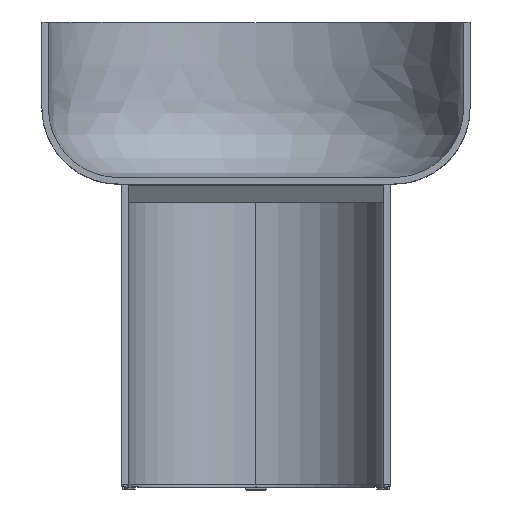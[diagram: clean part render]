
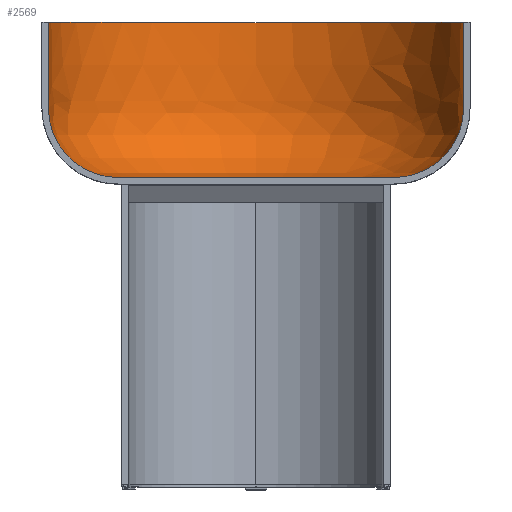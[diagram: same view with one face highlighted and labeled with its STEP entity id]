
A CAD part, top view. The second image highlights one B-rep face of the part: STEP entity #2569.
In plain terms, the highlighted free-form (B-spline) face has degree [2, 2] with [9, 5] control points.
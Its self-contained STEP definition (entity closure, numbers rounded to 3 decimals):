
#12 = EDGE_CURVE ( 'NONE', #1429, #1242, #2418, .T. ) ;
#17 = CARTESIAN_POINT ( 'NONE',  ( 48331.807, -33847.883, 625. ) ) ;
#169 = CARTESIAN_POINT ( 'NONE',  ( 47778.51, -33585.587, 435.686 ) ) ;
#186 = CARTESIAN_POINT ( 'NONE',  ( 48274.4, -33614.291, 406.982 ) ) ;
#200 = CARTESIAN_POINT ( 'NONE',  ( 48040.807, -33654.883, 406.982 ) ) ;
#227 = CARTESIAN_POINT ( 'NONE',  ( 48040.807, -33614.291, 406.982 ) ) ;
#258 = DIRECTION ( 'NONE',  ( 1., 0., 0. ) ) ;
#262 = ORIENTED_EDGE ( 'NONE', *, *, #944, .T. ) ;
#284 = CIRCLE ( 'NONE', #625, 98. ) ;
#304 = DIRECTION ( 'NONE',  ( 1., 0., 0. ) ) ;
#570 = DIRECTION ( 'NONE',  ( 0., -1., 0. ) ) ;
#625 = AXIS2_PLACEMENT_3D ( 'NONE', #3050, #570, #2010 ) ;
#652 = ORIENTED_EDGE ( 'NONE', *, *, #797, .T. ) ;
#675 = LINE ( 'NONE', #2333, #2247 ) ;
#734 = CARTESIAN_POINT ( 'NONE',  ( 48040.807, -33556.883, 504.982 ) ) ;
#745 = ORIENTED_EDGE ( 'NONE', *, *, #1136, .T. ) ;
#748 = CARTESIAN_POINT ( 'NONE',  ( 47847.807, -33847.883, 406.982 ) ) ;
#766 = CARTESIAN_POINT ( 'NONE',  ( 47944.307, -33751.383, 406.982 ) ) ;
#783 = CARTESIAN_POINT ( 'NONE',  ( 48331.807, -33556.883, 564.991 ) ) ;
#797 = EDGE_CURVE ( 'NONE', #1277, #2239, #675, .T. ) ;
#815 = CARTESIAN_POINT ( 'NONE',  ( 47944.307, -33847.883, 406.982 ) ) ;
#834 = CARTESIAN_POINT ( 'NONE',  ( 47749.807, -33847.883, 564.991 ) ) ;
#842 = AXIS2_PLACEMENT_3D ( 'NONE', #1895, #1347, #304 ) ;
#849 = EDGE_CURVE ( 'NONE', #2239, #3538, #2600, .T. ) ;
#895 = CARTESIAN_POINT ( 'NONE',  ( 47749.807, -33847.883, 625. ) ) ;
#944 = EDGE_CURVE ( 'NONE', #3538, #1429, #3437, .T. ) ;
#995 = ORIENTED_EDGE ( 'NONE', *, *, #1843, .T. ) ;
#998 = CARTESIAN_POINT ( 'NONE',  ( 48040.807, -33847.883, 406.982 ) ) ;
#1014 = CARTESIAN_POINT ( 'NONE',  ( 48040.807, -33847.883, 406.982 ) ) ;
#1015 = CARTESIAN_POINT ( 'NONE',  ( 47749.807, -33847.883, 564.991 ) ) ;
#1030 = CARTESIAN_POINT ( 'NONE',  ( 48040.807, -33556.883, 464.389 ) ) ;
#1058 = LINE ( 'NONE', #815, #2979 ) ;
#1060 = CARTESIAN_POINT ( 'NONE',  ( 48331.807, -33847.883, 464.389 ) ) ;
#1085 = VECTOR ( 'NONE', #2303, 1000. ) ;
#1136 = EDGE_CURVE ( 'NONE', #1242, #2776, #3487, .T. ) ;
#1192 = CARTESIAN_POINT ( 'NONE',  ( 48331.807, -33847.883, 564.991 ) ) ;
#1212 = CARTESIAN_POINT ( 'NONE',  ( 48040.807, -33847.883, 406.982 ) ) ;
#1223 = EDGE_LOOP ( 'NONE', ( #652, #2568, #262, #2525, #745, #995, #3234 ) ) ;
#1242 = VERTEX_POINT ( 'NONE', #895 ) ;
#1277 = VERTEX_POINT ( 'NONE', #1212 ) ;
#1285 = CARTESIAN_POINT ( 'NONE',  ( 48303.103, -33847.883, 435.686 ) ) ;
#1328 = CARTESIAN_POINT ( 'NONE',  ( 48040.807, -33847.883, 406.982 ) ) ;
#1342 = CARTESIAN_POINT ( 'NONE',  ( 47749.807, -33847.883, 625. ) ) ;
#1347 = DIRECTION ( 'NONE',  ( 0., 0., 1. ) ) ;
#1356 = VECTOR ( 'NONE', #3222, 1000. ) ;
#1361 = CARTESIAN_POINT ( 'NONE',  ( 48331.807, -33556.883, 625. ) ) ;
#1429 = VERTEX_POINT ( 'NONE', #2390 ) ;
#1461 = EDGE_CURVE ( 'NONE', #1776, #1277, #1058, .T. ) ;
#1551 = FACE_OUTER_BOUND ( 'NONE', #1223, .T. ) ;
#1584 = CARTESIAN_POINT ( 'NONE',  ( 47944.307, -33847.883, 406.982 ) ) ;
#1613 = CARTESIAN_POINT ( 'NONE',  ( 47847.807, -33847.883, 406.982 ) ) ;
#1661 = DIRECTION ( 'NONE',  ( 0., 0., -1. ) ) ;
#1731 = CARTESIAN_POINT ( 'NONE',  ( 48331.807, -33847.883, 504.982 ) ) ;
#1776 = VERTEX_POINT ( 'NONE', #748 ) ;
#1839 = CARTESIAN_POINT ( 'NONE',  ( 48040.807, -33847.883, 406.982 ) ) ;
#1843 = EDGE_CURVE ( 'NONE', #2776, #1776, #284, .T. ) ;
#1860 = CARTESIAN_POINT ( 'NONE',  ( 48137.307, -33751.383, 406.982 ) ) ;
#1875 = CARTESIAN_POINT ( 'NONE',  ( 48233.807, -33847.883, 406.982 ) ) ;
#1890 = CARTESIAN_POINT ( 'NONE',  ( 48137.307, -33847.883, 406.982 ) ) ;
#1895 = CARTESIAN_POINT ( 'NONE',  ( 48040.807, -33847.883, 625. ) ) ;
#2010 = DIRECTION ( 'NONE',  ( -1., 0., 0. ) ) ;
#2106 = CARTESIAN_POINT ( 'NONE',  ( 47778.51, -33847.883, 435.686 ) ) ;
#2122 = CARTESIAN_POINT ( 'NONE',  ( 47749.807, -33556.883, 464.389 ) ) ;
#2140 = CARTESIAN_POINT ( 'NONE',  ( 47749.807, -33556.883, 504.982 ) ) ;
#2169 = CARTESIAN_POINT ( 'NONE',  ( 47749.807, -33847.883, 464.389 ) ) ;
#2184 = CARTESIAN_POINT ( 'NONE',  ( 48040.807, -33556.883, 625. ) ) ;
#2239 = VERTEX_POINT ( 'NONE', #2699 ) ;
#2247 = VECTOR ( 'NONE', #3495, 1000. ) ;
#2303 = DIRECTION ( 'NONE',  ( 0., 0., 1. ) ) ;
#2333 = CARTESIAN_POINT ( 'NONE',  ( 48137.307, -33847.883, 406.982 ) ) ;
#2374 = CARTESIAN_POINT ( 'NONE',  ( 48040.807, -33556.883, 564.991 ) ) ;
#2390 = CARTESIAN_POINT ( 'NONE',  ( 48331.807, -33847.883, 625. ) ) ;
#2393 = CARTESIAN_POINT ( 'NONE',  ( 48040.807, -33585.587, 435.686 ) ) ;
#2407 = CARTESIAN_POINT ( 'NONE',  ( 48274.4, -33847.883, 406.982 ) ) ;
#2418 = CIRCLE ( 'NONE', #842, 291. ) ;
#2438 = CARTESIAN_POINT ( 'NONE',  ( 47807.214, -33614.291, 406.982 ) ) ;
#2470 = DIRECTION ( 'NONE',  ( 0., -1., 0. ) ) ;
#2525 = ORIENTED_EDGE ( 'NONE', *, *, #12, .T. ) ;
#2568 = ORIENTED_EDGE ( 'NONE', *, *, #849, .T. ) ;
#2569 = ADVANCED_FACE ( 'NONE', ( #1551 ), #2936, .T. ) ;
#2600 = CIRCLE ( 'NONE', #3508, 98. ) ;
#2666 = CARTESIAN_POINT ( 'NONE',  ( 48040.807, -33847.883, 406.982 ) ) ;
#2699 = CARTESIAN_POINT ( 'NONE',  ( 48233.807, -33847.883, 406.982 ) ) ;
#2710 = CARTESIAN_POINT ( 'NONE',  ( 47847.807, -33654.883, 406.982 ) ) ;
#2776 = VERTEX_POINT ( 'NONE', #3144 ) ;
#2936 =( BOUNDED_SURFACE ( )  B_SPLINE_SURFACE ( 2, 2, ( 
 ( #998, #1839, #1328, #2666, #1014 ),
 ( #1890, #1860, #3501, #766, #1584 ),
 ( #1875, #2978, #200, #2710, #1613 ),
 ( #2407, #186, #227, #2438, #3528 ),
 ( #1285, #3472, #2393, #169, #2106 ),
 ( #1060, #2993, #1030, #2122, #2169 ),
 ( #3218, #2962, #734, #2140, #3269 ),
 ( #3238, #783, #2374, #3337, #834 ),
 ( #17, #1361, #2184, #3009, #1342 ) ),
 .UNSPECIFIED., .F., .F., .F. ) 
 B_SPLINE_SURFACE_WITH_KNOTS ( ( 3, 1, 1, 1, 1, 1, 1, 3 ),
 ( 3, 2, 3 ),
 ( 0., 243.193, 243.193, 347.785, 347.785, 452.376, 452.376, 608.525 ),
 ( 0., 471.239, 942.478 ),
 .UNSPECIFIED. ) 
 GEOMETRIC_REPRESENTATION_ITEM ( )  RATIONAL_B_SPLINE_SURFACE ( (
 ( 1., 0.707, 1., 0.707, 1.),
 ( 1., 0.707, 1., 0.707, 1.),
 ( 1., 0.707, 1., 0.707, 1.),
 ( 0.924, 0.653, 0.924, 0.653, 0.924),
 ( 1., 0.707, 1., 0.707, 1.),
 ( 0.924, 0.653, 0.924, 0.653, 0.924),
 ( 1., 0.707, 1., 0.707, 1.),
 ( 1., 0.707, 1., 0.707, 1.),
 ( 1., 0.707, 1., 0.707, 1.) ) ) 
 REPRESENTATION_ITEM ( '' )  SURFACE ( )  );
#2957 = CARTESIAN_POINT ( 'NONE',  ( 48233.807, -33847.883, 504.982 ) ) ;
#2962 = CARTESIAN_POINT ( 'NONE',  ( 48331.807, -33556.883, 504.982 ) ) ;
#2978 = CARTESIAN_POINT ( 'NONE',  ( 48233.807, -33654.883, 406.982 ) ) ;
#2979 = VECTOR ( 'NONE', #258, 1000. ) ;
#2993 = CARTESIAN_POINT ( 'NONE',  ( 48331.807, -33556.883, 464.389 ) ) ;
#3009 = CARTESIAN_POINT ( 'NONE',  ( 47749.807, -33556.883, 625. ) ) ;
#3050 = CARTESIAN_POINT ( 'NONE',  ( 47847.807, -33847.883, 504.982 ) ) ;
#3144 = CARTESIAN_POINT ( 'NONE',  ( 47749.807, -33847.883, 504.982 ) ) ;
#3218 = CARTESIAN_POINT ( 'NONE',  ( 48331.807, -33847.883, 504.982 ) ) ;
#3222 = DIRECTION ( 'NONE',  ( 0., 0., -1. ) ) ;
#3234 = ORIENTED_EDGE ( 'NONE', *, *, #1461, .T. ) ;
#3238 = CARTESIAN_POINT ( 'NONE',  ( 48331.807, -33847.883, 564.991 ) ) ;
#3269 = CARTESIAN_POINT ( 'NONE',  ( 47749.807, -33847.883, 504.982 ) ) ;
#3337 = CARTESIAN_POINT ( 'NONE',  ( 47749.807, -33556.883, 564.991 ) ) ;
#3437 = LINE ( 'NONE', #1192, #1085 ) ;
#3472 = CARTESIAN_POINT ( 'NONE',  ( 48303.103, -33585.587, 435.686 ) ) ;
#3487 = LINE ( 'NONE', #1015, #1356 ) ;
#3495 = DIRECTION ( 'NONE',  ( 1., 0., 0. ) ) ;
#3501 = CARTESIAN_POINT ( 'NONE',  ( 48040.807, -33751.383, 406.982 ) ) ;
#3508 = AXIS2_PLACEMENT_3D ( 'NONE', #2957, #2470, #1661 ) ;
#3528 = CARTESIAN_POINT ( 'NONE',  ( 47807.214, -33847.883, 406.982 ) ) ;
#3538 = VERTEX_POINT ( 'NONE', #1731 ) ;
